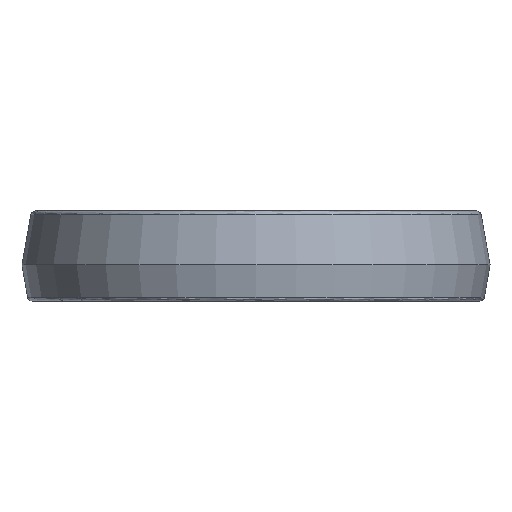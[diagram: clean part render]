
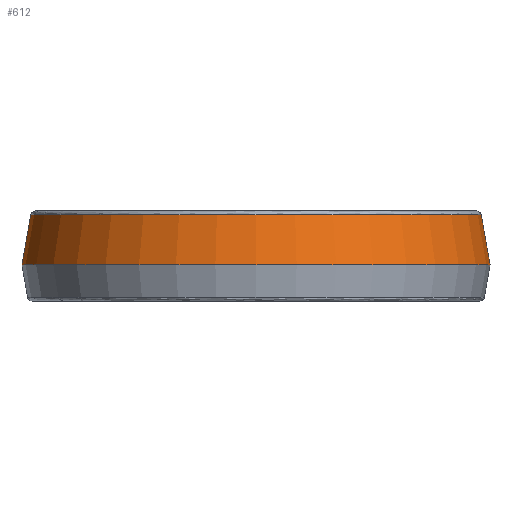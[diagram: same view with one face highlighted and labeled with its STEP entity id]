
A CAD part, left-side view. The second image highlights one B-rep face of the part: STEP entity #612.
In plain terms, the highlighted conical face has half-angle 10 degrees and reference radius 26 mm.
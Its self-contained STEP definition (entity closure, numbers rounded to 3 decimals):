
#157 = ORIENTED_EDGE ( 'NONE', *, *, #706, .T. ) ;
#172 = DIRECTION ( 'NONE',  ( 0., -1., 0. ) ) ;
#179 = VERTEX_POINT ( 'NONE', #1784 ) ;
#258 = ORIENTED_EDGE ( 'NONE', *, *, #1954, .T. ) ;
#273 = EDGE_CURVE ( 'NONE', #2479, #909, #577, .T. ) ;
#310 = EDGE_LOOP ( 'NONE', ( #1259, #157, #258, #1678 ) ) ;
#380 = VECTOR ( 'NONE', #2470, 1000. ) ;
#403 = DIRECTION ( 'NONE',  ( 0., -0.174, -0.985 ) ) ;
#464 = CARTESIAN_POINT ( 'NONE',  ( 0., 0., -1. ) ) ;
#469 = AXIS2_PLACEMENT_3D ( 'NONE', #778, #2355, #172 ) ;
#577 = LINE ( 'NONE', #1387, #1885 ) ;
#612 = ADVANCED_FACE ( 'NONE', ( #667 ), #1136, .T. ) ;
#628 = CARTESIAN_POINT ( 'NONE',  ( 0., 25.015, 4.587 ) ) ;
#667 = FACE_OUTER_BOUND ( 'NONE', #310, .T. ) ;
#699 = AXIS2_PLACEMENT_3D ( 'NONE', #464, #2050, #862 ) ;
#706 = EDGE_CURVE ( 'NONE', #2479, #820, #1195, .T. ) ;
#778 = CARTESIAN_POINT ( 'NONE',  ( 0., 0., 4.587 ) ) ;
#820 = VERTEX_POINT ( 'NONE', #628 ) ;
#827 = DIRECTION ( 'NONE',  ( 0., 0., -1. ) ) ;
#862 = DIRECTION ( 'NONE',  ( 0., 1., 0. ) ) ;
#909 = VERTEX_POINT ( 'NONE', #2421 ) ;
#1028 = EDGE_CURVE ( 'NONE', #909, #179, #1509, .T. ) ;
#1047 = DIRECTION ( 'NONE',  ( 0., -1., 0. ) ) ;
#1104 = CARTESIAN_POINT ( 'NONE',  ( 0., 26., -1. ) ) ;
#1136 = CONICAL_SURFACE ( 'NONE', #699, 26., 0.175 ) ;
#1195 = CIRCLE ( 'NONE', #469, 25.015 ) ;
#1259 = ORIENTED_EDGE ( 'NONE', *, *, #273, .F. ) ;
#1329 = AXIS2_PLACEMENT_3D ( 'NONE', #2018, #827, #1047 ) ;
#1387 = CARTESIAN_POINT ( 'NONE',  ( 0., -26., -1. ) ) ;
#1509 = CIRCLE ( 'NONE', #1329, 26. ) ;
#1678 = ORIENTED_EDGE ( 'NONE', *, *, #1028, .F. ) ;
#1784 = CARTESIAN_POINT ( 'NONE',  ( 0., 26., -1. ) ) ;
#1885 = VECTOR ( 'NONE', #403, 1000. ) ;
#1898 = LINE ( 'NONE', #1104, #380 ) ;
#1954 = EDGE_CURVE ( 'NONE', #820, #179, #1898, .T. ) ;
#2018 = CARTESIAN_POINT ( 'NONE',  ( 0., 0., -1. ) ) ;
#2050 = DIRECTION ( 'NONE',  ( 0., 0., -1. ) ) ;
#2355 = DIRECTION ( 'NONE',  ( 0., 0., -1. ) ) ;
#2421 = CARTESIAN_POINT ( 'NONE',  ( 0., -26., -1. ) ) ;
#2470 = DIRECTION ( 'NONE',  ( 0., 0.174, -0.985 ) ) ;
#2479 = VERTEX_POINT ( 'NONE', #2503 ) ;
#2503 = CARTESIAN_POINT ( 'NONE',  ( 0., -25.015, 4.587 ) ) ;
